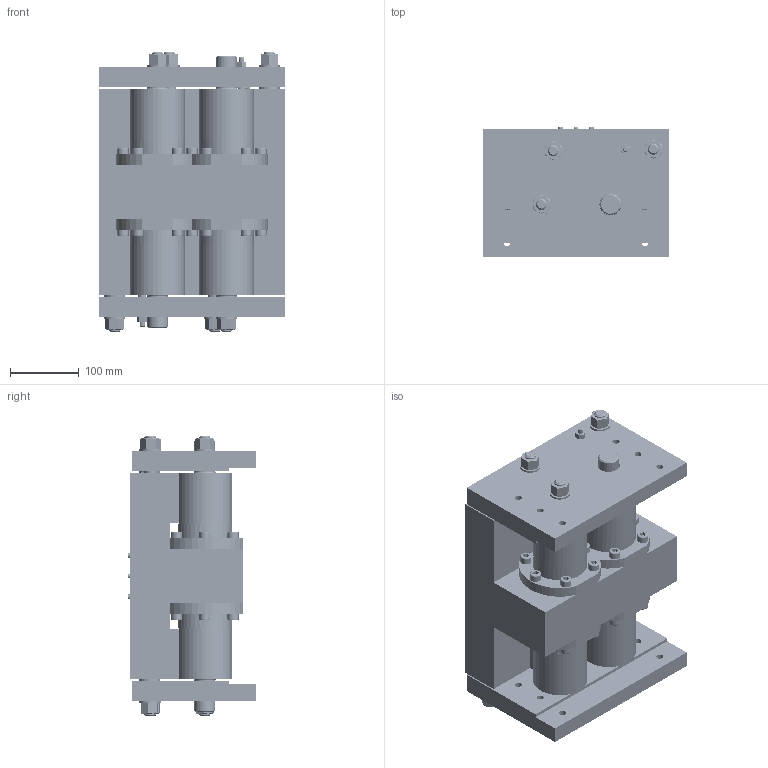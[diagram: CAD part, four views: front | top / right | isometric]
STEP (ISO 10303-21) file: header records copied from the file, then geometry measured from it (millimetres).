
FILE_DESCRIPTION (( 'STEP AP214' ), '1' );
FILE_NAME ('GST 80.STEP', '2006-12-13T14:33:06', ( ' ' ), ( ' ' ), 'SwSTEP 2.0', 'SolidWorks 2004104', '' );
FILE_SCHEMA (( 'AUTOMOTIVE_DESIGN' ));
Length unit declared in the file: millimetre
Products named in the file (39): Joint de tige OJUI 30x45x10_Défaut; Socket Head Cap Screw_ISO_ISO 4762 M10 x 25 --- 25N_Défaut; Hex Nut GradeC_ISO_Hexagon Nut ISO - 4034 - M16 - N_Défaut; Plain Washer Normal Grade A_ISO_Washer ISO 7089 - 16_Défaut; AU0014_Défaut; Engrenage YG225_Défaut; Joint torique D82x2_Défaut; Joint torique D30x3_Défaut; AU0003_Défaut; Bague IGUS WSM2023-15_Défaut; AU0018_Défaut; AU0012_Défaut; Joint racleur D12_Défaut; Joint racleur D30_Défaut; AU0017_Défaut; AU0020 Couvercle_Défaut_Défaut; Joint torique D15x3_Défaut; AU0007_Défaut; AU0011_Défaut; Joint quadrilobe D70_Défaut; AU0019 Ressort_Défaut; AU0006_Défaut; Socket Head Cap Screw_ISO_ISO 4762 M4 x 10 --- 10N_Défaut; Roulement 32x15x9_Défaut; AU0016_Défaut; Hex Nut GradeC_ISO_Hexagon Nut ISO - 4034 - M8 - N_Défaut; Socket Head Cap Screw_ISO_ISO 4762 M6 x 35 --- 24N_Défaut; AU0008_Défaut; AU0010_Défaut; Bague IGUS WSM3034-40_Défaut; GST 80; AU0001_Défaut; Socket Head Cap Screw_ISO_ISO 4762 M4 x 6 --- 6N_Défaut; AU0015_Défaut; AU0013_Défaut; AU0009_Défaut; AU0005_Défaut; AU0002_Défaut; MirrorPart2_Défaut
Assembly tree (160 placements, depth 2):
  GST 80
    AU0007_Défaut  x2
    AU0019 Ressort_Défaut  x2
    Joint de tige OJUI 30x45x10_Défaut  x8
    Plain Washer Normal Grade A_ISO_Washer ISO 7089 - 16_Défaut  x6
    Socket Head Cap Screw_ISO_ISO 4762 M6 x 35 --- 24N_Défaut  x39
    Joint racleur D30_Défaut  x6
    Bague IGUS WSM3034-40_Défaut  x8
    AU0015_Défaut
    Bague IGUS WSM2023-15_Défaut  x4
    Socket Head Cap Screw_ISO_ISO 4762 M10 x 25 --- 25N_Défaut  x22
    AU0010_Défaut  x4
    Joint torique D15x3_Défaut  x4
    Joint torique D82x2_Défaut  x4
    AU0002_Défaut  x2
    AU0009_Défaut  x2
    AU0011_Défaut  x4
    Hex Nut GradeC_ISO_Hexagon Nut ISO - 4034 - M16 - N_Défaut  x6
    Joint torique D30x3_Défaut  x2
    AU0008_Défaut  x2
    Joint quadrilobe D70_Défaut  x2
    AU0001_Défaut
    MirrorPart2_Défaut  x2
    AU0016_Défaut
    AU0005_Défaut  x2
    Socket Head Cap Screw_ISO_ISO 4762 M4 x 10 --- 10N_Défaut  x4
    AU0013_Défaut
    AU0012_Défaut  x2
    AU0003_Défaut  x2
    Hex Nut GradeC_ISO_Hexagon Nut ISO - 4034 - M8 - N_Défaut  x2
    AU0018_Défaut  x2
    Roulement 32x15x9_Défaut  x2
    AU0006_Défaut  x2
    Socket Head Cap Screw_ISO_ISO 4762 M4 x 6 --- 6N_Défaut
    Joint racleur D12_Défaut  x2
    AU0014_Défaut
    Engrenage YG225_Défaut
    AU0017_Défaut
    AU0020 Couvercle_Défaut_Défaut
Bounding box: 270 x 187 x 406.6 mm (x, y, z)
Volume: 11248244.5 mm3; surface area: 1890146.4 mm2
Topology: 164 solids, 164 shells, 4333 faces, 9888 edges, 5946 vertices
Faces by surface type: cylinder 1786, plane 1491, cone 740, bspline 316
Entity records: 65057 total; most frequent: CARTESIAN_POINT 17768, DIRECTION 6893, ORIENTED_EDGE 6130, EDGE_CURVE 3065, AXIS2_PLACEMENT_3D 2823, VERTEX_POINT 1964, EDGE_LOOP 1681, UNCERTAINTY_MEASURE_WITH_UNIT 1413
